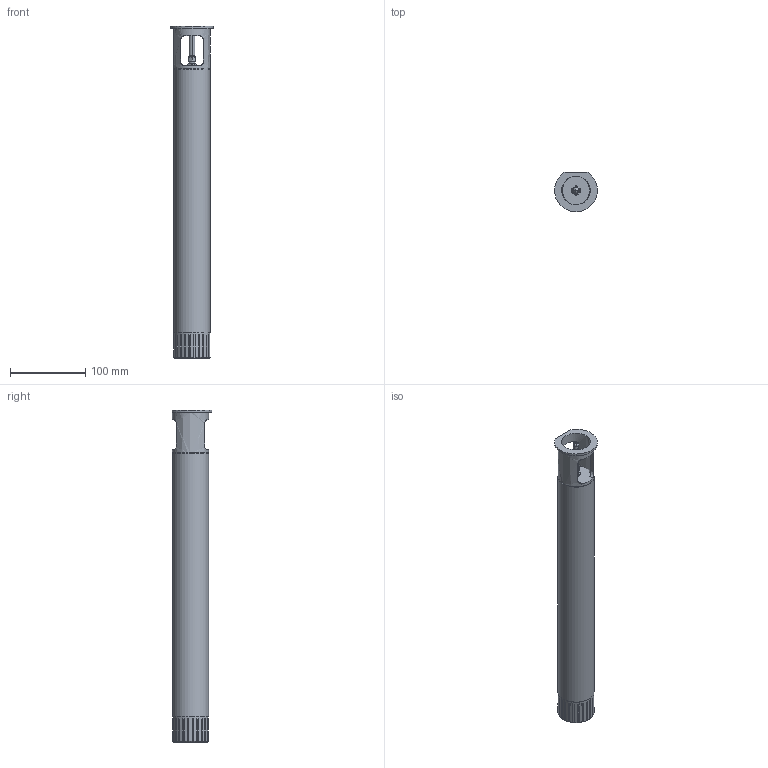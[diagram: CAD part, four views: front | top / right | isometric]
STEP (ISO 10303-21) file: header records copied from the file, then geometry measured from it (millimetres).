
FILE_DESCRIPTION( ('This file contains a STEP AP42 implementation' ,'as created by ZW3D STEP Interface translator.') ,'2;1' );
FILE_NAME( 'hlf41.stp' ,'20 221.115926', (''), ('ZWCAD Software Co.'), 'Version 1.0', 'ZW3D to STEP translator', '' );
FILE_SCHEMA( ('CONFIG_CONTROL_DESIGN') );
Length unit declared in the file: millimetre
Products named in the file (1): 0
Bounding box: 56.93 x 53 x 442 mm (x, y, z)
Volume: 700615.3 mm3; surface area: 85733.2 mm2
Topology: 1 solids, 3 shells, 665 faces, 1768 edges, 1112 vertices
Faces by surface type: bspline 665
Entity records: 25480 total; most frequent: CARTESIAN_POINT 14889, ORIENTED_EDGE 3528, EDGE_CURVE 1764, VERTEX_POINT 1120, B_SPLINE_CURVE_WITH_KNOTS 1002, EDGE_LOOP 716, FACE_OUTER_BOUND 665, ADVANCED_FACE 665
